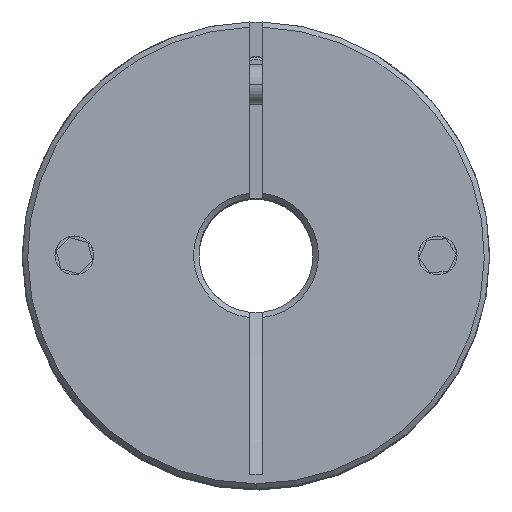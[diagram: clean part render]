
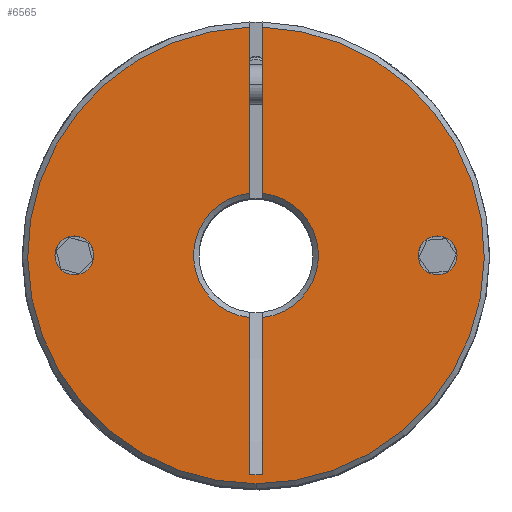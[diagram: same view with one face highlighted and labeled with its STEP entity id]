
A CAD part, top view. The second image highlights one B-rep face of the part: STEP entity #6565.
In plain terms, the highlighted planar face has unit normal (0, 0, 1) as drawn and (0, 0, -1) by its records, which use the part's own axes.
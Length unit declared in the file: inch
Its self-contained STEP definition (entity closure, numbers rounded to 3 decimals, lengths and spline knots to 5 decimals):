
#82 = CARTESIAN_POINT ( 'NONE',  ( 0.025, 0.03125, 0. ) ) ;
#93 = EDGE_LOOP ( 'NONE', ( #1248, #608 ) ) ;
#106 = CIRCLE ( 'NONE', #4875, 0.3006 ) ;
#127 = ORIENTED_EDGE ( 'NONE', *, *, #3880, .T. ) ;
#271 = DIRECTION ( 'NONE',  ( 1., 0., 0. ) ) ;
#287 = ORIENTED_EDGE ( 'NONE', *, *, #1314, .T. ) ;
#351 = VERTEX_POINT ( 'NONE', #1059 ) ;
#356 = CARTESIAN_POINT ( 'NONE',  ( -1.09956, -0.03125, 0. ) ) ;
#422 = CARTESIAN_POINT ( 'NONE',  ( -0.29897, 0.03125, 0. ) ) ;
#449 = AXIS2_PLACEMENT_3D ( 'NONE', #4767, #2517, #3132 ) ;
#499 = DIRECTION ( 'NONE',  ( 0., 0., 1. ) ) ;
#514 = EDGE_CURVE ( 'NONE', #5377, #6470, #5471, .T. ) ;
#608 = ORIENTED_EDGE ( 'NONE', *, *, #2562, .T. ) ;
#627 = VECTOR ( 'NONE', #4550, 39.37008 ) ;
#684 = CARTESIAN_POINT ( 'NONE',  ( -1.225, -0.03125, 0. ) ) ;
#696 = EDGE_CURVE ( 'NONE', #5249, #4051, #106, .T. ) ;
#715 = EDGE_CURVE ( 'NONE', #5404, #6187, #1812, .T. ) ;
#735 = VECTOR ( 'NONE', #4440, 39.37008 ) ;
#810 = VECTOR ( 'NONE', #5058, 39.37008 ) ;
#819 = CARTESIAN_POINT ( 'NONE',  ( 0., 0., 0. ) ) ;
#825 = AXIS2_PLACEMENT_3D ( 'NONE', #2217, #2761, #4511 ) ;
#863 = FACE_OUTER_BOUND ( 'NONE', #5459, .T. ) ;
#1013 = VERTEX_POINT ( 'NONE', #4269 ) ;
#1026 = DIRECTION ( 'NONE',  ( 1., 0., 0. ) ) ;
#1059 = CARTESIAN_POINT ( 'NONE',  ( -0.09375, -0.875, 0. ) ) ;
#1194 = CARTESIAN_POINT ( 'NONE',  ( 1.0561, -0.03125, 0. ) ) ;
#1205 = CARTESIAN_POINT ( 'NONE',  ( 0.09375, 0.875, 0. ) ) ;
#1248 = ORIENTED_EDGE ( 'NONE', *, *, #4381, .T. ) ;
#1257 = CARTESIAN_POINT ( 'NONE',  ( 0., -0.875, 0. ) ) ;
#1314 = EDGE_CURVE ( 'NONE', #6470, #1648, #1417, .T. ) ;
#1417 = CIRCLE ( 'NONE', #449, 1.1 ) ;
#1419 = LINE ( 'NONE', #82, #735 ) ;
#1473 = ORIENTED_EDGE ( 'NONE', *, *, #514, .T. ) ;
#1483 = ORIENTED_EDGE ( 'NONE', *, *, #5773, .T. ) ;
#1568 = CARTESIAN_POINT ( 'NONE',  ( -0.29897, -0.03125, 0. ) ) ;
#1594 = DIRECTION ( 'NONE',  ( 1., 0., 0. ) ) ;
#1621 = DIRECTION ( 'NONE',  ( 0., 0., 1. ) ) ;
#1643 = DIRECTION ( 'NONE',  ( 0., 0., 1. ) ) ;
#1648 = VERTEX_POINT ( 'NONE', #356 ) ;
#1799 = FACE_BOUND ( 'NONE', #4033, .T. ) ;
#1812 = CIRCLE ( 'NONE', #6075, 0.3006 ) ;
#1900 = EDGE_CURVE ( 'NONE', #3435, #6187, #6308, .T. ) ;
#1920 = AXIS2_PLACEMENT_3D ( 'NONE', #1257, #3338, #3316 ) ;
#1936 = CARTESIAN_POINT ( 'NONE',  ( 0.29897, -0.03125, 0. ) ) ;
#1964 = FACE_BOUND ( 'NONE', #93, .T. ) ;
#2113 = ORIENTED_EDGE ( 'NONE', *, *, #1900, .F. ) ;
#2117 = EDGE_CURVE ( 'NONE', #5518, #5249, #2948, .T. ) ;
#2164 = DIRECTION ( 'NONE',  ( 1., 0., 0. ) ) ;
#2207 = ORIENTED_EDGE ( 'NONE', *, *, #696, .T. ) ;
#2217 = CARTESIAN_POINT ( 'NONE',  ( 0., 0.875, 0. ) ) ;
#2447 = DIRECTION ( 'NONE',  ( 1., 0., 0. ) ) ;
#2509 = EDGE_CURVE ( 'NONE', #4597, #5594, #2757, .T. ) ;
#2517 = DIRECTION ( 'NONE',  ( 0., 0., -1. ) ) ;
#2562 = EDGE_CURVE ( 'NONE', #351, #1013, #7058, .T. ) ;
#2576 = EDGE_CURVE ( 'NONE', #4051, #5377, #1419, .T. ) ;
#2757 = CIRCLE ( 'NONE', #825, 0.09375 ) ;
#2761 = DIRECTION ( 'NONE',  ( 0., 0., 1. ) ) ;
#2784 = DIRECTION ( 'NONE',  ( -1., 0., 0. ) ) ;
#2923 = CARTESIAN_POINT ( 'NONE',  ( 0., 0.875, 0. ) ) ;
#2948 = LINE ( 'NONE', #4613, #6215 ) ;
#3012 = CARTESIAN_POINT ( 'NONE',  ( -1.09956, 0.03125, 0. ) ) ;
#3056 = CARTESIAN_POINT ( 'NONE',  ( 1.0561, -0.03125, 0. ) ) ;
#3132 = DIRECTION ( 'NONE',  ( 1., 0., 0. ) ) ;
#3275 = ORIENTED_EDGE ( 'NONE', *, *, #2576, .T. ) ;
#3308 = AXIS2_PLACEMENT_3D ( 'NONE', #819, #5071, #2447 ) ;
#3316 = DIRECTION ( 'NONE',  ( 1., 0., 0. ) ) ;
#3338 = DIRECTION ( 'NONE',  ( 0., 0., 1. ) ) ;
#3349 = EDGE_CURVE ( 'NONE', #1648, #5404, #6108, .T. ) ;
#3435 = VERTEX_POINT ( 'NONE', #3056 ) ;
#3690 = CARTESIAN_POINT ( 'NONE',  ( 0., 0., 0. ) ) ;
#3745 = CARTESIAN_POINT ( 'NONE',  ( 0.29897, 0.03125, 0. ) ) ;
#3809 = CARTESIAN_POINT ( 'NONE',  ( 0., 0., 0. ) ) ;
#3855 = CIRCLE ( 'NONE', #6477, 0.09375 ) ;
#3880 = EDGE_CURVE ( 'NONE', #3435, #5518, #5748, .T. ) ;
#4033 = EDGE_LOOP ( 'NONE', ( #1483, #5663 ) ) ;
#4045 = CARTESIAN_POINT ( 'NONE',  ( -0.09375, 0.875, 0. ) ) ;
#4051 = VERTEX_POINT ( 'NONE', #422 ) ;
#4106 = ORIENTED_EDGE ( 'NONE', *, *, #715, .T. ) ;
#4269 = CARTESIAN_POINT ( 'NONE',  ( 0.09375, -0.875, 0. ) ) ;
#4381 = EDGE_CURVE ( 'NONE', #1013, #351, #6289, .T. ) ;
#4392 = CARTESIAN_POINT ( 'NONE',  ( 0., -0.03125, 0. ) ) ;
#4440 = DIRECTION ( 'NONE',  ( -1., 0., 0. ) ) ;
#4511 = DIRECTION ( 'NONE',  ( 1., 0., 0. ) ) ;
#4550 = DIRECTION ( 'NONE',  ( 0., 1., 0. ) ) ;
#4597 = VERTEX_POINT ( 'NONE', #4045 ) ;
#4613 = CARTESIAN_POINT ( 'NONE',  ( 0., 0.03125, 0. ) ) ;
#4627 = DIRECTION ( 'NONE',  ( 0., 0., 1. ) ) ;
#4703 = AXIS2_PLACEMENT_3D ( 'NONE', #3809, #1643, #1026 ) ;
#4767 = CARTESIAN_POINT ( 'NONE',  ( 0., 0., 0. ) ) ;
#4875 = AXIS2_PLACEMENT_3D ( 'NONE', #5308, #5936, #5376 ) ;
#5058 = DIRECTION ( 'NONE',  ( 1., 0., 0. ) ) ;
#5071 = DIRECTION ( 'NONE',  ( 0., 0., -1. ) ) ;
#5249 = VERTEX_POINT ( 'NONE', #3745 ) ;
#5308 = CARTESIAN_POINT ( 'NONE',  ( 0., 0., 0. ) ) ;
#5376 = DIRECTION ( 'NONE',  ( 1., 0., 0. ) ) ;
#5377 = VERTEX_POINT ( 'NONE', #3012 ) ;
#5404 = VERTEX_POINT ( 'NONE', #1568 ) ;
#5459 = EDGE_LOOP ( 'NONE', ( #6341, #2207, #3275, #1473, #287, #5819, #4106, #2113, #127 ) ) ;
#5471 = CIRCLE ( 'NONE', #3308, 1.1 ) ;
#5518 = VERTEX_POINT ( 'NONE', #5832 ) ;
#5594 = VERTEX_POINT ( 'NONE', #1205 ) ;
#5663 = ORIENTED_EDGE ( 'NONE', *, *, #2509, .T. ) ;
#5707 = DIRECTION ( 'NONE',  ( -1., 0., 0. ) ) ;
#5733 = AXIS2_PLACEMENT_3D ( 'NONE', #6558, #499, #1594 ) ;
#5748 = LINE ( 'NONE', #1194, #627 ) ;
#5773 = EDGE_CURVE ( 'NONE', #5594, #4597, #3855, .T. ) ;
#5819 = ORIENTED_EDGE ( 'NONE', *, *, #3349, .T. ) ;
#5832 = CARTESIAN_POINT ( 'NONE',  ( 1.0561, 0.03125, 0. ) ) ;
#5936 = DIRECTION ( 'NONE',  ( 0., 0., 1. ) ) ;
#5983 = PLANE ( 'NONE',  #4703 ) ;
#6075 = AXIS2_PLACEMENT_3D ( 'NONE', #3690, #1621, #2164 ) ;
#6108 = LINE ( 'NONE', #684, #810 ) ;
#6187 = VERTEX_POINT ( 'NONE', #1936 ) ;
#6215 = VECTOR ( 'NONE', #5707, 39.37008 ) ;
#6289 = CIRCLE ( 'NONE', #5733, 0.09375 ) ;
#6308 = LINE ( 'NONE', #4392, #6994 ) ;
#6341 = ORIENTED_EDGE ( 'NONE', *, *, #2117, .T. ) ;
#6470 = VERTEX_POINT ( 'NONE', #6998 ) ;
#6477 = AXIS2_PLACEMENT_3D ( 'NONE', #2923, #4627, #271 ) ;
#6558 = CARTESIAN_POINT ( 'NONE',  ( 0., -0.875, 0. ) ) ;
#6565 = ADVANCED_FACE ( 'NONE', ( #1964, #1799, #863 ), #5983, .F. ) ;
#6994 = VECTOR ( 'NONE', #2784, 39.37008 ) ;
#6998 = CARTESIAN_POINT ( 'NONE',  ( 1.1, 0., 0. ) ) ;
#7058 = CIRCLE ( 'NONE', #1920, 0.09375 ) ;
